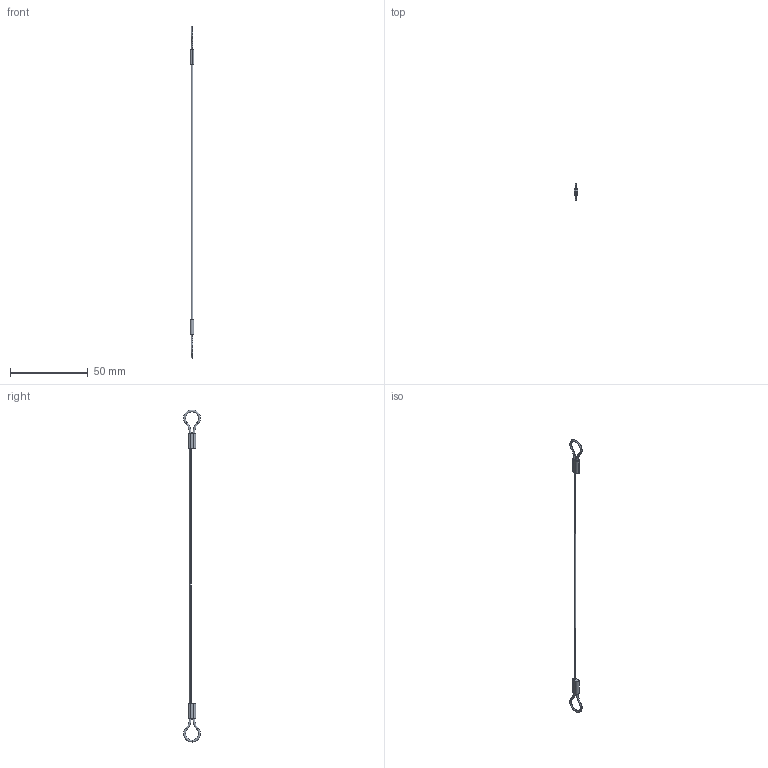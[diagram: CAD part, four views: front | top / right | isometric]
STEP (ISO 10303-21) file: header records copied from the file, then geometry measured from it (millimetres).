
FILE_DESCRIPTION (( 'STEP AP203' ), '1' );
FILE_NAME ('LA1065.I04-203N1.step', '2026-03-23T15:41:20', ( '' ), ( '' ), 'SwSTEP 2.0', 'SolidWorks 2019', '' );
FILE_SCHEMA (( 'CONFIG_CONTROL_DESIGN' ));
Length unit declared in the file: millimetre
Products named in the file (1): LA1065.I04-203N1
Bounding box: 2.4 x 10.78 x 213.97 mm (x, y, z)
Volume: 462 mm3; surface area: 1157.6 mm2
Topology: 1 solids, 1 shells, 30 faces, 68 edges, 42 vertices
Faces by surface type: torus 14, cylinder 8, plane 8
Entity records: 945 total; most frequent: DIRECTION 178, CARTESIAN_POINT 141, ORIENTED_EDGE 136, AXIS2_PLACEMENT_3D 79, EDGE_CURVE 68, CIRCLE 48, VERTEX_POINT 42, EDGE_LOOP 36
